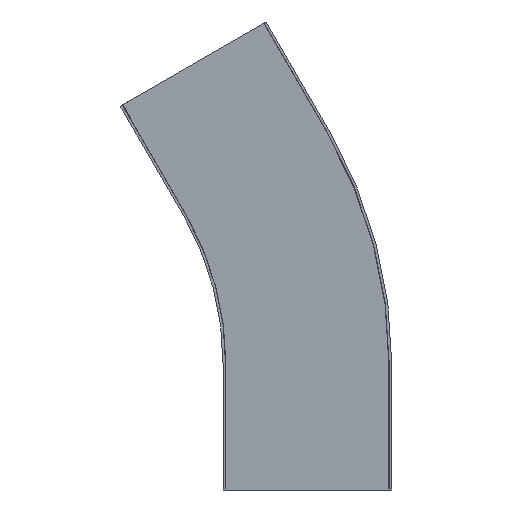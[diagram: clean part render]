
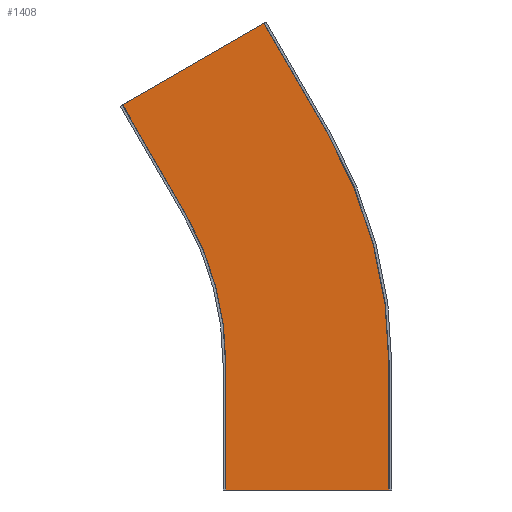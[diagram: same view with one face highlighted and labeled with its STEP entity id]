
A CAD part, front view. The second image highlights one B-rep face of the part: STEP entity #1408.
In plain terms, the highlighted planar face has unit normal (0, -1, 0).
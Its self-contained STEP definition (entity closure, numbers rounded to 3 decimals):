
#12 = ORIENTED_EDGE ( 'NONE', *, *, #1325, .F. ) ;
#34 = VERTEX_POINT ( 'NONE', #1549 ) ;
#74 = ORIENTED_EDGE ( 'NONE', *, *, #1456, .T. ) ;
#164 = ORIENTED_EDGE ( 'NONE', *, *, #1702, .F. ) ;
#211 = DIRECTION ( 'NONE',  ( 0., -1., 0. ) ) ;
#223 = VERTEX_POINT ( 'NONE', #2853 ) ;
#346 = VECTOR ( 'NONE', #2906, 1000. ) ;
#387 = CIRCLE ( 'NONE', #1564, 546.65 ) ;
#404 = VERTEX_POINT ( 'NONE', #2875 ) ;
#505 = CIRCLE ( 'NONE', #2992, 353.35 ) ;
#538 = LINE ( 'NONE', #1937, #2278 ) ;
#603 = VERTEX_POINT ( 'NONE', #1589 ) ;
#662 = AXIS2_PLACEMENT_3D ( 'NONE', #2143, #211, #1869 ) ;
#672 = ORIENTED_EDGE ( 'NONE', *, *, #2608, .T. ) ;
#688 = VECTOR ( 'NONE', #2163, 1000. ) ;
#699 = PLANE ( 'NONE',  #662 ) ;
#731 = ORIENTED_EDGE ( 'NONE', *, *, #883, .T. ) ;
#883 = EDGE_CURVE ( 'Edge18', #2980, #1892, #387, .T. ) ;
#911 = CARTESIAN_POINT ( 'NONE',  ( -96.65, -42., 0. ) ) ;
#1057 = LINE ( 'NONE', #2118, #1562 ) ;
#1134 = LINE ( 'NONE', #911, #1635 ) ;
#1201 = DIRECTION ( 'NONE',  ( 0., -1., 0. ) ) ;
#1205 = CARTESIAN_POINT ( 'NONE',  ( -218.99, -42., 456.579 ) ) ;
#1239 = CARTESIAN_POINT ( 'NONE',  ( -96.65, -42., 150. ) ) ;
#1309 = ORIENTED_EDGE ( 'NONE', *, *, #1371, .F. ) ;
#1319 = CARTESIAN_POINT ( 'NONE',  ( -450., -42., 150. ) ) ;
#1325 = EDGE_CURVE ( 'NONE', #34, #603, #1134, .T. ) ;
#1344 = DIRECTION ( 'NONE',  ( 0., 0., -1. ) ) ;
#1371 = EDGE_CURVE ( 'NONE', #2980, #34, #1057, .T. ) ;
#1405 = DIRECTION ( 'NONE',  ( -0.5, 0., 0.866 ) ) ;
#1408 = ADVANCED_FACE ( 'NONE', ( #3119 ), #699, .T. ) ;
#1432 = CARTESIAN_POINT ( 'NONE',  ( -51.587, -42., 553.229 ) ) ;
#1456 = EDGE_CURVE ( 'NONE', #2955, #603, #3005, .T. ) ;
#1549 = CARTESIAN_POINT ( 'NONE',  ( 96.65, -42., 0. ) ) ;
#1562 = VECTOR ( 'NONE', #2846, 1000. ) ;
#1564 = AXIS2_PLACEMENT_3D ( 'NONE', #1963, #1201, #1697 ) ;
#1589 = CARTESIAN_POINT ( 'NONE',  ( -96.65, -42., 0. ) ) ;
#1635 = VECTOR ( 'NONE', #1647, 1000. ) ;
#1647 = DIRECTION ( 'NONE',  ( -1., 0., 0. ) ) ;
#1697 = DIRECTION ( 'NONE',  ( 0., 0., -1. ) ) ;
#1702 = EDGE_CURVE ( 'NONE', #2955, #223, #505, .T. ) ;
#1741 = ORIENTED_EDGE ( 'NONE', *, *, #1969, .F. ) ;
#1853 = EDGE_LOOP ( 'NONE', ( #12, #1309, #731, #672, #2563, #1741, #164, #74 ) ) ;
#1869 = DIRECTION ( 'NONE',  ( 1., 0., 0. ) ) ;
#1892 = VERTEX_POINT ( 'NONE', #2433 ) ;
#1937 = CARTESIAN_POINT ( 'NONE',  ( -143.99, -42., 326.675 ) ) ;
#1963 = CARTESIAN_POINT ( 'NONE',  ( -450., -42., 150. ) ) ;
#1969 = EDGE_CURVE ( 'NONE', #223, #404, #538, .T. ) ;
#2005 = VERTEX_POINT ( 'NONE', #1432 ) ;
#2101 = LINE ( 'NONE', #1205, #688 ) ;
#2118 = CARTESIAN_POINT ( 'NONE',  ( 96.65, -42., 150. ) ) ;
#2143 = CARTESIAN_POINT ( 'NONE',  ( -96.65, -42., 150. ) ) ;
#2163 = DIRECTION ( 'NONE',  ( -0.866, 0., -0.5 ) ) ;
#2189 = DIRECTION ( 'NONE',  ( -0.5, 0., 0.866 ) ) ;
#2203 = CARTESIAN_POINT ( 'NONE',  ( -96.65, -42., 150. ) ) ;
#2278 = VECTOR ( 'NONE', #2189, 1000. ) ;
#2433 = CARTESIAN_POINT ( 'NONE',  ( 23.413, -42., 423.325 ) ) ;
#2463 = CARTESIAN_POINT ( 'NONE',  ( 96.65, -42., 150. ) ) ;
#2472 = EDGE_CURVE ( 'NONE', #2005, #404, #2101, .T. ) ;
#2563 = ORIENTED_EDGE ( 'NONE', *, *, #2472, .T. ) ;
#2583 = VECTOR ( 'NONE', #1405, 1000. ) ;
#2608 = EDGE_CURVE ( 'Edge42', #1892, #2005, #3049, .T. ) ;
#2786 = CARTESIAN_POINT ( 'NONE',  ( 23.413, -42., 423.325 ) ) ;
#2846 = DIRECTION ( 'NONE',  ( 0., 0., -1. ) ) ;
#2853 = CARTESIAN_POINT ( 'NONE',  ( -143.99, -42., 326.675 ) ) ;
#2875 = CARTESIAN_POINT ( 'NONE',  ( -218.99, -42., 456.579 ) ) ;
#2906 = DIRECTION ( 'NONE',  ( 0., 0., -1. ) ) ;
#2955 = VERTEX_POINT ( 'NONE', #2203 ) ;
#2980 = VERTEX_POINT ( 'NONE', #2463 ) ;
#2992 = AXIS2_PLACEMENT_3D ( 'NONE', #1319, #3018, #1344 ) ;
#3005 = LINE ( 'NONE', #1239, #346 ) ;
#3018 = DIRECTION ( 'NONE',  ( 0., -1., 0. ) ) ;
#3049 = LINE ( 'NONE', #2786, #2583 ) ;
#3119 = FACE_OUTER_BOUND ( 'NONE', #1853, .T. ) ;
